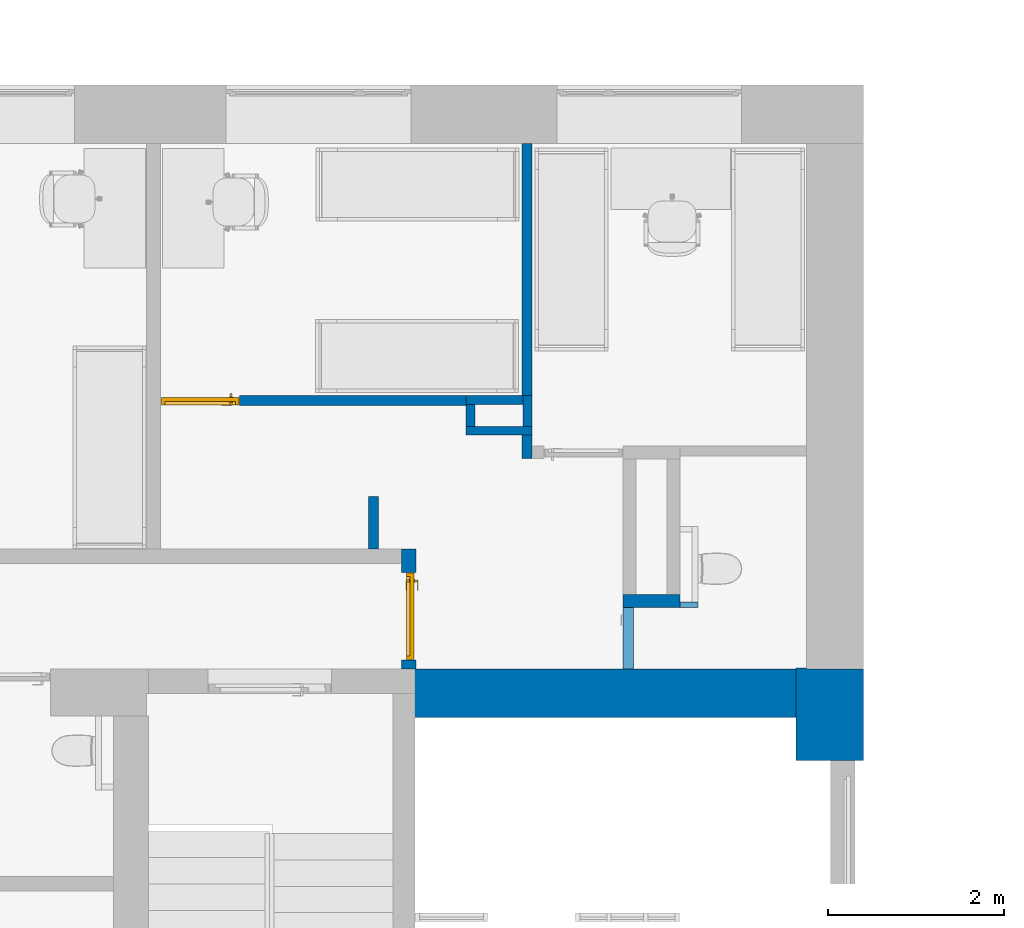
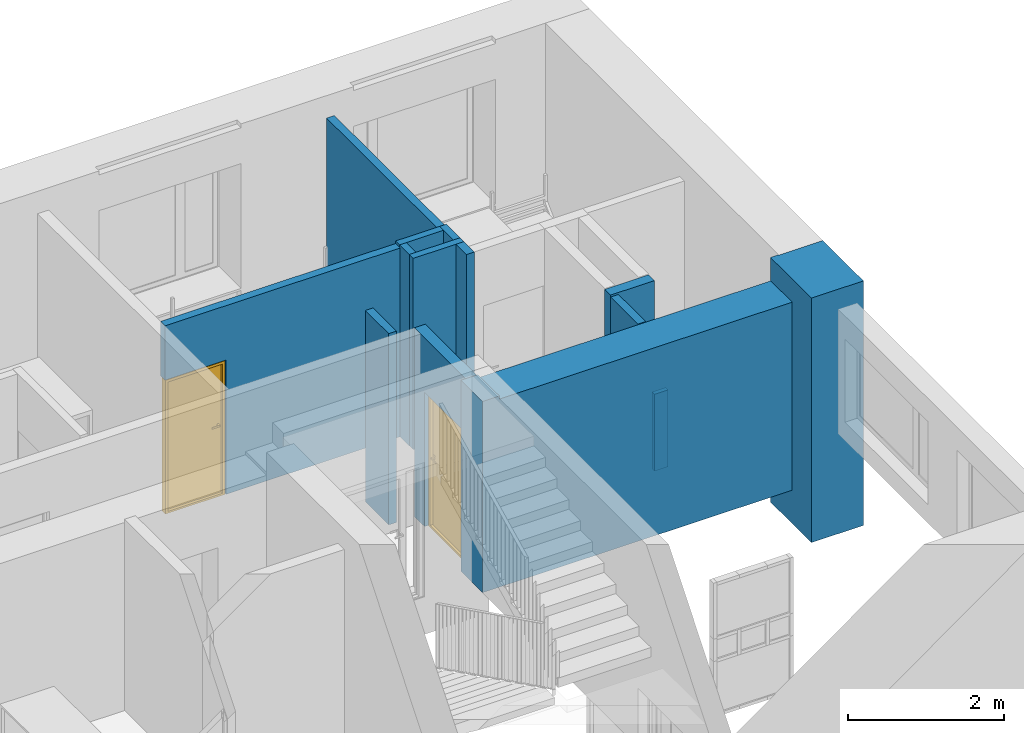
# One storey, part 14 of 46: 14 walls, 2 doors, 7 openings.
"""IFC2X3 building model written with IfcOpenShell, lengths in millimetres."""

from ifc_helpers import new_model, entity, si_unit, converted_unit, derived_unit, direction, frame, frame_2d, origin, place, context, subcontext, project, spatial, polyline, rectangle, extrude, clip, bounded_halfspace, faceted_brep, source, transform, mapped, material, material_list, layer, layer_set, layer_usage, type_object, type_shapes, element, fill, save


model = new_model("IFC2X3")

# Units and contexts
model_context = context("Model", 3, precision=0.01, world=origin(), true_north=direction((6.12303176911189e-17, 1.0)))
body_context = subcontext(model_context, "Body", "Model", "MODEL_VIEW")
ifc_project = project(units=[si_unit("LENGTHUNIT", "METRE", prefix="MILLI"), si_unit("AREAUNIT", "SQUARE_METRE"), si_unit("VOLUMEUNIT", "CUBIC_METRE"), converted_unit("PLANEANGLEUNIT", "DEGREE", entity("IfcRatioMeasure", 0.0174532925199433), si_unit("PLANEANGLEUNIT", "RADIAN"), dimensions=[0, 0, 0, 0, 0, 0, 0]), si_unit("MASSUNIT", "GRAM", prefix="KILO"), derived_unit("MASSDENSITYUNIT", [(si_unit("MASSUNIT", "GRAM", prefix="KILO"), 1), (si_unit("LENGTHUNIT", "METRE"), -3)]), si_unit("TIMEUNIT", "SECOND"), si_unit("FREQUENCYUNIT", "HERTZ"), si_unit("THERMODYNAMICTEMPERATUREUNIT", "DEGREE_CELSIUS"), derived_unit("THERMALTRANSMITTANCEUNIT", [(si_unit("MASSUNIT", "GRAM", prefix="KILO"), 1), (si_unit("THERMODYNAMICTEMPERATUREUNIT", "KELVIN"), -1), (si_unit("TIMEUNIT", "SECOND"), -3)]), derived_unit("VOLUMETRICFLOWRATEUNIT", [(si_unit("LENGTHUNIT", "METRE"), 3), (si_unit("TIMEUNIT", "SECOND"), -1)]), si_unit("ELECTRICCURRENTUNIT", "AMPERE"), si_unit("ELECTRICVOLTAGEUNIT", "VOLT"), si_unit("POWERUNIT", "WATT"), si_unit("FORCEUNIT", "NEWTON", prefix="KILO"), si_unit("ILLUMINANCEUNIT", "LUX"), si_unit("LUMINOUSFLUXUNIT", "LUMEN"), si_unit("LUMINOUSINTENSITYUNIT", "CANDELA"), derived_unit("USERDEFINED", [(si_unit("MASSUNIT", "GRAM", prefix="KILO"), -1), (si_unit("LENGTHUNIT", "METRE"), -2), (si_unit("TIMEUNIT", "SECOND"), 3), (si_unit("LUMINOUSFLUXUNIT", "LUMEN"), 1)]), derived_unit("LINEARVELOCITYUNIT", [(si_unit("LENGTHUNIT", "METRE"), 1), (si_unit("TIMEUNIT", "SECOND"), -1)]), si_unit("PRESSUREUNIT", "PASCAL"), derived_unit("USERDEFINED", [(si_unit("LENGTHUNIT", "METRE"), -2), (si_unit("MASSUNIT", "GRAM", prefix="KILO"), 1), (si_unit("TIMEUNIT", "SECOND"), -2)]), derived_unit("LINEARFORCEUNIT", [(si_unit("MASSUNIT", "GRAM", prefix="KILO"), 1), (si_unit("LENGTHUNIT", "METRE"), 1), (si_unit("TIMEUNIT", "SECOND"), -2), (si_unit("LENGTHUNIT", "METRE"), -1)]), derived_unit("PLANARFORCEUNIT", [(si_unit("MASSUNIT", "GRAM", prefix="KILO"), 1), (si_unit("LENGTHUNIT", "METRE"), 1), (si_unit("TIMEUNIT", "SECOND"), -2), (si_unit("LENGTHUNIT", "METRE"), -2)])], contexts=[model_context])

# Site, building, storey
site_placement = place(None, origin())
site = spatial("IfcSite", under=ifc_project, at=site_placement, Name="Default", CompositionType="ELEMENT")
building_placement = place(site_placement, origin())
building = spatial("IfcBuilding", under=site, at=building_placement, Name="SMA ARH", CompositionType="ELEMENT")
storey_placement = place(building_placement, origin())
storey = spatial("IfcBuildingStorey", under=building, at=storey_placement, Name="1 Korrus", CompositionType="ELEMENT", Elevation=0.0)

# Wall
ifc_material_1 = material(Name="_ol.olev sein")
ifc_layer_1 = layer(ifc_material_1, 550.0)
ifc_layer_set_1 = layer_set([ifc_layer_1], Name="Basic Wall:Generic - 550mm")
ifc_layer_usage_1 = layer_usage(ifc_layer_set_1, "AXIS2", "NEGATIVE", 275.0)
wall_type_1 = type_object("IfcWallType", Name="Basic Wall:Generic - 550mm", PredefinedType="STANDARD", material=ifc_layer_set_1)
wall_1_placement = place(storey_placement, frame((38195.0, 6245.0, 0.0), z_axis=(0.0, 0.0, 1.0), x_axis=(-1.0, 0.0, 0.0)))
element("IfcWallStandardCase", 1, at=wall_1_placement, inside=storey, type_object=wall_type_1, material=ifc_layer_usage_1, Name="Basic Wall:Generic - 550mm", ObjectType="Basic Wall:Generic - 550mm", context=body_context, shape_type="Clipping", body=[
    clip(clip(extrude(rectangle(XDim=4580.00000000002, YDim=550.000000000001, at=frame_2d((2290.00000000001, 2.8421709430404e-14), x_axis=(-1.0, 0.0))), origin(), (0.0, 0.0, 1.0), 2989.99999999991), bounded_halfspace(frame((4330.0, -275.0, 2940.0), z_axis=(0.0, 0.0, -1.0), x_axis=(0.0, -1.0, 0.0)), True, frame((4330.0, -275.0, 2940.0), z_axis=(0.0, 0.0, -1.0), x_axis=(0.0, -1.0, 0.0)), polyline([(0.0, 0.0), (0.0, 4330.0), (-550.0, 4330.0), (-550.0, 0.0), (0.0, 0.0)]))), bounded_halfspace(frame((4330.0, 275.0, 2940.0), z_axis=(1.0, 0.0, 0.0), x_axis=(0.0, 0.0, 1.0)), True, frame((4330.0, 275.0, 2940.0), z_axis=(1.0, 0.0, 0.0), x_axis=(0.0, 0.0, 1.0)), polyline([(0.0, 0.0), (50.0, 0.0), (50.0, 270.0), (50.0, 550.0), (0.0, 550.0), (0.0, 0.0)]))),
])

# Wall, opening
ifc_material_2 = material(Name="EST. Müüritis. Väikeplokk. Kergkruusplokk")
ifc_layer_2 = layer(ifc_material_2, 150.0)
ifc_layer_set_2 = layer_set([ifc_layer_2], Name="Basic Wall:SS-02_ 150mm šahtide vahesein")
ifc_layer_usage_2 = layer_usage(ifc_layer_set_2, "AXIS2", "POSITIVE", -75.0)
wall_type_2 = type_object("IfcWallType", Name="Basic Wall:SS-02_ 150mm šahtide vahesein", PredefinedType="STANDARD", material=ifc_layer_set_2)
wall_2_placement = place(storey_placement, frame((36880.0, 7295.0, 0.0), z_axis=(0.0, 0.0, 1.0), x_axis=(-1.0, 0.0, 0.0)))
wall_2 = element("IfcWallStandardCase", 2, at=wall_2_placement, inside=storey, type_object=wall_type_2, material=ifc_layer_usage_2, Name="Basic Wall:SS-02_ 150mm šahtide vahesein", ObjectType="Basic Wall:SS-02_ 150mm šahtide vahesein", context=body_context, shape_type="SweptSolid", body=[
    extrude(rectangle(XDim=649.999999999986, YDim=150.000000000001, at=frame_2d((324.999999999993, 4.68958205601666e-13), x_axis=(-1.0, 0.0))), origin(), (0.0, 0.0, 1.0), 2979.99999999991),
])
opening_1_placement = place(wall_2_placement, origin())
element("IfcOpeningElement", 3, at=opening_1_placement, cuts=wall_2, Name="Basic Wall:SS-02_ 150mm šahtide vahesein", ObjectType="Opening", context=body_context, shape_type="SweptSolid", body=[
    extrude(rectangle(XDim=2099.99999999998, YDim=116.0, at=frame_2d((0.0, 0.0), x_axis=(0.0, 1.0))), frame((592.0, 75.0000093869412, 1050.0), z_axis=(0.0, 1.0, 0.0), x_axis=(-1.0, 0.0, 0.0)), (0.0, 0.0, 1.0), 700.0),
])

# Wall, openings
ifc_layer_3 = layer(ifc_material_1, 770.0)
ifc_layer_set_3 = layer_set([ifc_layer_3], Name="Basic Wall:Generic - 770mm")
ifc_layer_usage_3 = layer_usage(ifc_layer_set_3, "AXIS2", "NEGATIVE", 385.0)
wall_type_3 = type_object("IfcWallType", Name="Basic Wall:Generic - 770mm", PredefinedType="STANDARD", material=ifc_layer_set_3)
wall_3_placement = place(storey_placement, frame((38580.0, 6530.0, -522.953629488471), z_axis=(0.0, 0.0, 1.0), x_axis=(0.0, -1.0, 0.0)))
wall_3 = element("IfcWallStandardCase", 4, at=wall_3_placement, inside=storey, type_object=wall_type_3, material=ifc_layer_usage_3, Name="Basic Wall:Generic - 770mm", ObjectType="Basic Wall:Generic - 770mm", context=body_context, shape_type="Clipping", body=[
    clip(clip(extrude(rectangle(XDim=1049.99999999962, YDim=769.999999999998, at=frame_2d((524.999999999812, -5.96855898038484e-13), x_axis=(-1.0, 0.0))), origin(), (0.0, 0.0, 1.0), 3822.95362948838), bounded_halfspace(frame((10.0, -265.0, 3822.95362948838), z_axis=(0.0, -1.0, 0.0), x_axis=(1.0, 0.0, 0.0)), True, frame((10.0, -265.0, 3822.95362948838), z_axis=(0.0, -1.0, 0.0), x_axis=(1.0, 0.0, 0.0)), polyline([(0.0, 0.0), (-10.0, 0.0), (-10.0, -3822.95362948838), (0.0, -3822.95362948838), (0.0, -3300.0), (0.0, -2257.62827233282), (0.0, 0.0)]))), bounded_halfspace(frame((10.0, -265.0, 1565.32535715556), z_axis=(-1.0, 0.0, 0.0), x_axis=(0.0, -1.0, 0.0)), False, frame((10.0, -265.0, 1565.32535715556), z_axis=(-1.0, 0.0, 0.0), x_axis=(0.0, -1.0, 0.0)), polyline([(0.0, 0.0), (0.0, 2257.62827233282), (-650.0, 2257.62827233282), (-650.0, -1565.32535715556), (-585.0, -1565.32535715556), (0.0, -1565.32535715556), (0.0, -1042.37172766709), (-565.0, -1042.37172766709), (-565.0, 0.0), (0.0, 0.0)]))),
])
opening_2_placement = place(storey_placement, frame((38580.0, 6530.0, -522.953629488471), z_axis=(0.0, 0.0, 1.0), x_axis=(0.0, -1.0, 0.0)))
element("IfcOpeningElement", 5, at=opening_2_placement, cuts=wall_3, Name="Basic Wall:Generic - 770mm:1", ObjectType="Opening", context=body_context, shape_type="SweptSolid", body=[
    extrude(rectangle(XDim=550.0, YDim=665.0, at=frame_2d((55.0, 46.4999999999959), x_axis=(1.0, 0.0))), frame((230.0, -79.0, 522.953629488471)), (0.0, 0.0, 1.0), 1042.37172766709),
])
opening_3_placement = place(wall_3_placement, origin())
element("IfcOpeningElement", 6, at=opening_3_placement, cuts=wall_3, Name="Basic Wall:Generic - 770mm", ObjectType="Opening", context=body_context, shape_type="SweptSolid", body=[
    extrude(rectangle(XDim=1300.0, YDim=2130.0, at=frame_2d((-1.70530256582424e-13, -5.6843418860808e-13), x_axis=(1.0, 0.0))), frame((2295.0, -1514.09900086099, 2502.95362948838), z_axis=(0.0, 1.0, 0.0), x_axis=(0.0, 0.0, 1.0)), (0.0, 0.0, 1.0), 3048.0),
])
opening_4_placement = place(wall_3_placement, origin())
element("IfcOpeningElement", 7, at=opening_4_placement, cuts=wall_3, Name="Basic Wall:Generic - 770mm", ObjectType="Opening", context=body_context, shape_type="SweptSolid", body=[
    extrude(rectangle(XDim=1450.0, YDim=950.0, at=frame_2d((0.0, -5.40012479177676e-13), x_axis=(1.0, 0.0))), frame((1840.0, -1889.0, 587.953629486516), z_axis=(0.0, 1.0, 0.0), x_axis=(0.0, 0.0, 1.0)), (0.0, 0.0, 1.0), 3048.0),
])

# Wall, opening, door
ifc_material_3 = material(Name="EST. Ehitusplaat. Kipsplaat")
ifc_layer_4 = layer(ifc_material_3, 12.5)
ifc_layer_5 = layer(ifc_material_3, 12.5)
ifc_material_4 = material(Name="EST. Soojustus. Mineraalvill. Default")
ifc_layer_6 = layer(ifc_material_4, 50.0)
ifc_layer_7 = layer(ifc_material_3, 12.5)
ifc_layer_8 = layer(ifc_material_4, 50.0)
ifc_layer_9 = layer(ifc_material_3, 12.5)
ifc_layer_10 = layer(ifc_material_3, 12.5)
ifc_layer_set_4 = layer_set([ifc_layer_4, ifc_layer_5, ifc_layer_6, ifc_layer_7, ifc_layer_8, ifc_layer_9, ifc_layer_10], Name="Basic Wall:SS-04_Kips, 50+50 mm metallkarkass 2")
ifc_layer_usage_4 = layer_usage(ifc_layer_set_4, "AXIS2", "NEGATIVE", 81.25)
wall_type_4 = type_object("IfcWallType", Name="Basic Wall:SS-04_Kips, 50+50 mm metallkarkass 2", PredefinedType="STANDARD", material=ifc_layer_set_4)
wall_4_placement = place(storey_placement, frame((33792.5000000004, 7882.50000000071, 0.0), z_axis=(0.0, 0.0, 1.0), x_axis=(0.0, -1.0, 0.0)))
wall_4 = element("IfcWallStandardCase", 8, at=wall_4_placement, inside=storey, type_object=wall_type_4, material=ifc_layer_usage_4, Name="Basic Wall:SS-04_Kips, 50+50 mm metallkarkass 2", ObjectType="Basic Wall:SS-04_Kips, 50+50 mm metallkarkass 2", context=body_context, shape_type="SweptSolid", body=[
    extrude(rectangle(XDim=1362.50000000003, YDim=162.499999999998, at=frame_2d((681.250000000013, 0.0), x_axis=(-1.0, 0.0))), origin(), (0.0, 0.0, 1.0), 2949.99999999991),
])
opening_5_placement = place(wall_4_placement, frame((262.500000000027, -81.2499999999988, 0.0)))
opening_5 = element("IfcOpeningElement", 9, at=opening_5_placement, cuts=wall_4, Name="SMA_D01, 1-poolne:SU-P-04 - 1000x2100 EI-30:1", ObjectType="Opening", context=body_context, shape_type="SweptSolid", body=[
    extrude(rectangle(XDim=2099.99999999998, YDim=1000.0, at=frame_2d((1049.99999999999, 500.0), x_axis=(1.0, 0.0))), frame((0.0, 0.0, 0.0), z_axis=(0.0, 1.0, 0.0), x_axis=(0.0, 0.0, 1.0)), (0.0, 0.0, 1.0), 162.5),
])
ifc_material_5 = material(Name="EST. Metall. Alumiinium. Värvitud. RAL7023 (Concrete grey)")
ifc_material_6 = material(Name="<Unnamed>")
ifc_material_7 = material(Name="EST. Klaas. 3x. Default")
ifc_material_list_1 = material_list([ifc_material_6, ifc_material_7, ifc_material_6, ifc_material_5, ifc_material_6, ifc_material_5, ifc_material_5])
door_style_1 = type_object("IfcDoorStyle", Name="SMA_D01, 1-poolne:SU-P-04 - 1000x2100 EI-30", ConstructionType="NOTDEFINED", OperationType="SINGLE_SWING_RIGHT", ParameterTakesPrecedence=False, Sizeable=False, material=ifc_material_list_1)
shared_shape_1 = source(origin(), body_context, "Body", "Brep", [
    faceted_brep([(110.0, 52.5000000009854, 1112.5), (110.0, 90.5000000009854, 1112.5), (85.0, 90.5000000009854, 1112.5), (85.0, 47.5000000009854, 1112.5), (205.0, 47.5000000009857, 1112.5), (205.0, 52.5000000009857, 1112.5), (110.0, 52.5000000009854, 1087.5), (205.0, 52.5000000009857, 1087.5), (205.0, 47.5000000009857, 1087.5), (85.0, 47.5000000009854, 1087.5), (85.0, 90.5000000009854, 1087.5), (110.0, 90.5000000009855, 1087.5)], [[[0, 1, 2, 3, 4, 5]], [[6, 7, 8, 9, 10, 11]], [[1, 0, 6, 11]], [[2, 1, 11, 10]], [[3, 2, 10, 9]], [[4, 3, 9, 8]], [[5, 4, 8, 7]], [[0, 5, 7, 6]]]),
    faceted_brep([(122.499999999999, 90.5000000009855, 1137.5), (122.499999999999, 92.5000000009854, 1137.5), (72.4999999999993, 92.5000000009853, 1137.5), (72.4999999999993, 90.5000000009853, 1137.5), (122.499999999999, 90.5000000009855, 1017.5), (72.4999999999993, 90.5000000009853, 1017.5), (72.4999999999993, 92.5000000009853, 1017.5), (122.499999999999, 92.5000000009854, 1017.5)], [[[0, 1, 2, 3]], [[4, 5, 6, 7]], [[1, 0, 4, 7]], [[2, 1, 7, 6]], [[3, 2, 6, 5]], [[0, 3, 5, 4]]]),
    faceted_brep([(110.0, 182.500000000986, 1112.5), (205.0, 182.500000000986, 1112.5), (205.0, 187.500000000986, 1112.5), (85.0, 187.500000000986, 1112.5), (85.0, 144.500000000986, 1112.5), (110.0, 144.500000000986, 1112.5), (110.0, 182.500000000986, 1087.5), (110.0, 144.500000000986, 1087.5), (85.0, 144.500000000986, 1087.5), (85.0, 187.500000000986, 1087.5), (205.0, 187.500000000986, 1087.5), (205.0, 182.500000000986, 1087.5)], [[[0, 1, 2, 3, 4, 5]], [[6, 7, 8, 9, 10, 11]], [[5, 7, 6, 0]], [[4, 8, 7, 5]], [[3, 9, 8, 4]], [[2, 10, 9, 3]], [[1, 11, 10, 2]], [[0, 6, 11, 1]]]),
    faceted_brep([(122.499999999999, 144.500000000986, 1137.5), (72.4999999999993, 144.500000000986, 1137.5), (72.4999999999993, 142.500000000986, 1137.5), (122.499999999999, 142.500000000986, 1137.5), (122.499999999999, 144.500000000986, 1017.5), (122.499999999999, 142.500000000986, 1017.5), (72.4999999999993, 142.500000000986, 1017.5), (72.4999999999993, 144.500000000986, 1017.5)], [[[0, 1, 2, 3]], [[4, 5, 6, 7]], [[3, 5, 4, 0]], [[2, 6, 5, 3]], [[1, 7, 6, 2]], [[0, 4, 7, 1]]]),
    faceted_brep([(950.0, 52.5000000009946, 30.0), (950.0, 52.5000000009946, 0.0), (950.0, 92.5000000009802, 0.0), (950.0, 92.5000000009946, 20.0), (950.0, 92.5000000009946, 30.0), (50.0, 52.5000000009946, 30.0), (50.0, 92.5000000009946, 30.0), (50.0, 92.5000000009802, 20.0), (50.0, 92.5000000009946, 0.0), (50.0, 52.5000000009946, 0.0), (35.0, 92.5000000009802, 0.0), (35.0, 142.500000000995, 0.0), (965.0, 142.500000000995, 0.0), (965.0, 92.5000000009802, 0.0), (965.0, 142.500000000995, 20.0), (965.0, 92.5000000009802, 20.0), (35.0, 142.500000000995, 20.0), (35.0, 92.5000000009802, 20.0)], [[[0, 1, 2, 3, 4]], [[5, 6, 7, 8, 9]], [[1, 0, 5, 9]], [[2, 1, 9, 8, 10, 11, 12, 13]], [[6, 4, 3, 7]], [[0, 4, 6, 5]], [[14, 15, 13, 12]], [[16, 11, 10, 17]], [[15, 14, 16, 17, 7, 3]], [[13, 15, 3, 2]], [[14, 12, 11, 16]], [[17, 10, 8, 7]]]),
    faceted_brep([(990.0, 52.5000000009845, 0.0), (950.0, 52.5000000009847, 0.0), (950.0, 92.5000000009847, 0.0), (965.0, 92.5000000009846, 0.0), (965.0, 142.500000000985, 0.0), (990.0, 142.500000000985, 0.0), (990.0, 52.5000000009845, 2090.0), (10.0, 52.5000000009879, 2090.0), (10.0, 52.5000000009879, 0.0), (50.0, 52.5000000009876, 0.0), (50.0, 52.5000000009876, 2050.0), (950.0, 52.5000000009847, 2050.0), (950.0, 92.5000000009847, 2050.0), (50.0, 92.5000000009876, 2050.0), (50.0, 92.5000000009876, 0.0), (35.0, 92.5000000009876, 0.0), (35.0, 92.5000000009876, 2065.0), (965.0, 92.5000000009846, 2065.0), (965.0, 142.500000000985, 2065.0), (35.0, 142.500000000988, 2065.0), (35.0, 142.500000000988, 0.0), (10.0, 142.500000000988, 0.0), (10.0, 142.500000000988, 2090.0), (990.0, 142.500000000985, 2090.0)], [[[0, 1, 2, 3, 4, 5]], [[1, 0, 6, 7, 8, 9, 10, 11]], [[2, 1, 11, 12]], [[3, 2, 12, 13, 14, 15, 16, 17]], [[4, 3, 17, 18]], [[5, 4, 18, 19, 20, 21, 22, 23]], [[0, 5, 23, 6]], [[8, 7, 22, 21]], [[9, 8, 21, 20, 15, 14]], [[10, 9, 14, 13]], [[16, 15, 20, 19]], [[11, 10, 13, 12]], [[17, 16, 19, 18]], [[7, 6, 23, 22]]]),
    faceted_brep([(35.0, 92.5000000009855, 2065.0), (35.0, 92.5000000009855, 20.0), (965.0, 92.5000000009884, 20.0), (965.0, 92.5000000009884, 2065.0), (35.0, 142.500000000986, 2065.0), (965.0, 142.500000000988, 2065.0), (965.0, 142.500000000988, 20.0), (35.0, 142.500000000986, 20.0)], [[[0, 1, 2, 3]], [[4, 5, 6, 7]], [[1, 0, 4, 7]], [[2, 1, 7, 6]], [[3, 2, 6, 5]], [[0, 3, 5, 4]]]),
])
type_shapes(door_style_1, [shared_shape_1])
door_1_placement = place(opening_5_placement, origin())
door_1 = element("IfcDoor", 10, at=door_1_placement, inside=storey, type_object=door_style_1, material=ifc_material_5, Name="SMA_D01, 1-poolne:SU-P-04 - 1000x2100 EI-30", ObjectType="SMA_D01, 1-poolne:SU-P-04 - 1000x2100 EI-30", OverallHeight=2099.99999999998, OverallWidth=999.999999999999, context=body_context, shape_type="MappedRepresentation", body=[
    mapped(shared_shape_1, transform((0.0, 0.0, 0.0), scale=1.0)),
])
fill(opening_5, door_1)

# Walls
ifc_layer_11 = layer(ifc_material_3, 12.5)
ifc_layer_12 = layer(ifc_material_3, 12.5)
ifc_layer_13 = layer(ifc_material_4, 66.0)
ifc_layer_14 = layer(ifc_material_3, 12.5)
ifc_layer_15 = layer(ifc_material_3, 12.5)
ifc_layer_set_5 = layer_set([ifc_layer_11, ifc_layer_12, ifc_layer_13, ifc_layer_14, ifc_layer_15], Name="Basic Wall:SS-05_Kips, 66mm metallkarkass")
ifc_layer_usage_5 = layer_usage(ifc_layer_set_5, "AXIS2", "NEGATIVE", 58.0)
wall_type_5 = type_object("IfcWallType", Name="Basic Wall:SS-05_Kips, 66mm metallkarkass", PredefinedType="STANDARD", material=ifc_layer_set_5)
wall_5_placement = place(storey_placement, frame((35135.5000000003, 12500.0, 0.0), z_axis=(0.0, 0.0, 1.0), x_axis=(0.0, -1.0, 0.0)))
element("IfcWallStandardCase", 11, at=wall_5_placement, inside=storey, type_object=wall_type_5, material=ifc_layer_usage_5, Name="Basic Wall:SS-05_Kips, 66mm metallkarkass", ObjectType="Basic Wall:SS-05_Kips, 66mm metallkarkass", context=body_context, shape_type="SweptSolid", body=[
    extrude(rectangle(XDim=2868.49999999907, YDim=116.0, at=frame_2d((1434.24999999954, -2.20268248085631e-13), x_axis=(-1.0, 0.0))), origin(), (0.0, 0.0, 1.0), 2949.99999999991),
])
ifc_layer_usage_6 = layer_usage(ifc_layer_set_5, "AXIS2", "NEGATIVE", 58.0)
wall_6_placement = place(storey_placement, frame((35135.5000000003, 9181.50000000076, 0.0), z_axis=(0.0, 0.0, 1.0), x_axis=(0.0, -1.0, 0.0)))
element("IfcWallStandardCase", 12, at=wall_6_placement, inside=storey, type_object=wall_type_5, material=ifc_layer_usage_6, Name="Basic Wall:SS-05_Kips, 66mm metallkarkass", ObjectType="Basic Wall:SS-05_Kips, 66mm metallkarkass", context=body_context, shape_type="SweptSolid", body=[
    extrude(rectangle(XDim=266.998594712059, YDim=116.0, at=frame_2d((133.49929735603, 0.0), x_axis=(-1.0, 0.0))), origin(), (0.0, 0.0, 1.0), 2989.99999999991),
])

# Wall, opening, door
ifc_layer_usage_7 = layer_usage(ifc_layer_set_5, "AXIS2", "POSITIVE", -58.0)
wall_7_placement = place(storey_placement, frame((34443.5000000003, 9573.50000000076, 0.0), z_axis=(0.0, 0.0, 1.0), x_axis=(-1.0, 0.0, 0.0)))
wall_7 = element("IfcWallStandardCase", 13, at=wall_7_placement, inside=storey, type_object=wall_type_5, material=ifc_layer_usage_7, Name="Basic Wall:SS-05_Kips, 66mm metallkarkass", ObjectType="Basic Wall:SS-05_Kips, 66mm metallkarkass", context=body_context, shape_type="SweptSolid", body=[
    extrude(rectangle(XDim=3475.75, YDim=116.0, at=frame_2d((1737.875, 1.24344978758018e-13), x_axis=(-1.0, 0.0))), origin(), (0.0, 0.0, 1.0), 2949.99999999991),
])
opening_6_placement = place(wall_7_placement, frame((3475.75, 58.0, 0.0)))
opening_6 = element("IfcOpeningElement", 14, at=opening_6_placement, cuts=wall_7, Name="SMA_D01, 1-poolne:SU-P-05 - 900x2100 TUBA:1", ObjectType="Opening", context=body_context, shape_type="SweptSolid", body=[
    extrude(rectangle(XDim=2099.99999999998, YDim=900.0, at=frame_2d((1049.99999999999, 450.0), x_axis=(1.0, 0.0))), frame((0.0, 0.0, 0.0), z_axis=(0.0, -1.0, 0.0), x_axis=(0.0, 0.0, 1.0)), (0.0, 0.0, 1.0), 116.0),
])
ifc_material_list_2 = material_list([ifc_material_5, ifc_material_6, ifc_material_5, ifc_material_6, ifc_material_6, ifc_material_7, ifc_material_5])
door_style_2 = type_object("IfcDoorStyle", Name="SMA_D01, 1-poolne:SU-P-05 - 900x2100 TUBA", ConstructionType="NOTDEFINED", OperationType="SINGLE_SWING_LEFT", ParameterTakesPrecedence=False, Sizeable=False, material=ifc_material_list_2)
shared_shape_2 = source(origin(), body_context, "Body", "Brep", [
    faceted_brep([(790.0, 6.0, 1112.5), (695.0, 6.0, 1112.5), (695.0, 1.0, 1112.5), (815.0, 1.0, 1112.5), (815.0, 44.0, 1112.5), (790.0, 44.0, 1112.5), (790.0, 6.0, 1087.5), (790.0, 44.0, 1087.5), (815.0, 44.0, 1087.5), (815.0, 1.0, 1087.5), (695.0, 1.0, 1087.5), (695.0, 6.0, 1087.5)], [[[0, 1, 2, 3, 4, 5]], [[6, 7, 8, 9, 10, 11]], [[5, 7, 6, 0]], [[4, 8, 7, 5]], [[3, 9, 8, 4]], [[2, 10, 9, 3]], [[1, 11, 10, 2]], [[0, 6, 11, 1]]]),
    faceted_brep([(777.500000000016, 44.0, 1137.5), (827.500000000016, 44.0, 1137.5), (827.500000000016, 46.0, 1137.5), (777.500000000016, 46.0, 1137.5), (777.500000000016, 44.0, 1017.5), (777.500000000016, 46.0, 1017.5), (827.500000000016, 46.0, 1017.5), (827.500000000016, 44.0, 1017.5)], [[[0, 1, 2, 3]], [[4, 5, 6, 7]], [[3, 5, 4, 0]], [[2, 6, 5, 3]], [[1, 7, 6, 2]], [[0, 4, 7, 1]]]),
    faceted_brep([(790.0, 136.0, 1112.5), (790.0, 98.0, 1112.5), (815.0, 98.0, 1112.5), (815.0, 141.0, 1112.5), (695.0, 141.0, 1112.5), (695.0, 136.0, 1112.5), (790.0, 136.0, 1087.5), (695.0, 136.0, 1087.5), (695.0, 141.0, 1087.5), (815.0, 141.0, 1087.5), (815.0, 98.0, 1087.5), (790.0, 98.0, 1087.5)], [[[0, 1, 2, 3, 4, 5]], [[6, 7, 8, 9, 10, 11]], [[1, 0, 6, 11]], [[2, 1, 11, 10]], [[3, 2, 10, 9]], [[4, 3, 9, 8]], [[5, 4, 8, 7]], [[0, 5, 7, 6]]]),
    faceted_brep([(777.500000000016, 98.0, 1137.5), (777.500000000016, 96.0, 1137.5), (827.500000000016, 96.0, 1137.5), (827.500000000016, 98.0, 1137.5), (777.500000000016, 98.0, 1017.5), (827.500000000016, 98.0, 1017.5), (827.500000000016, 96.0, 1017.5), (777.500000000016, 96.0, 1017.5)], [[[0, 1, 2, 3]], [[4, 5, 6, 7]], [[1, 0, 4, 7]], [[2, 1, 7, 6]], [[3, 2, 6, 5]], [[0, 3, 5, 4]]]),
    faceted_brep([(50.0, 6.0, 30.0), (50.0, 46.0, 30.0), (50.0, 46.0, 20.0), (50.0, 46.0, 0.0), (50.0, 6.0, 0.0), (850.0, 6.0, 30.0), (850.0, 6.0, 0.0), (850.0, 46.0, 0.0), (850.0, 46.0, 20.0), (850.0, 46.0, 30.0), (35.0, 46.0, 0.0), (35.0, 96.0, 0.0), (865.0, 96.0, 0.0), (865.0, 46.0, 0.0), (35.0, 96.0, 20.0), (35.0, 46.0, 20.0), (865.0, 96.0, 20.0), (865.0, 46.0, 20.0)], [[[0, 1, 2, 3, 4]], [[5, 6, 7, 8, 9]], [[4, 6, 5, 0]], [[3, 10, 11, 12, 13, 7, 6, 4]], [[9, 8, 2, 1]], [[0, 5, 9, 1]], [[14, 11, 10, 15]], [[16, 17, 13, 12]], [[15, 2, 8, 17, 16, 14]], [[10, 3, 2, 15]], [[14, 16, 12, 11]], [[17, 8, 7, 13]]]),
    faceted_brep([(10.0, 6.0, 0.0), (10.0, 96.0, 0.0), (35.0, 96.0, 0.0), (35.0, 46.0, 0.0), (50.0, 46.0, 0.0), (50.0, 6.0, 0.0), (50.0, 6.0, 2050.0), (850.0, 6.0, 2050.0), (850.0, 6.0, 0.0), (890.0, 6.0, 0.0), (890.0, 6.0, 2090.0), (10.0, 6.0, 2090.0), (50.0, 46.0, 2050.0), (35.0, 46.0, 2065.0), (865.0, 46.0, 2065.0), (865.0, 46.0, 0.0), (850.0, 46.0, 0.0), (850.0, 46.0, 2050.0), (35.0, 96.0, 2065.0), (10.0, 96.0, 2090.0), (890.0, 96.0, 2090.0), (890.0, 96.0, 0.0), (865.0, 96.0, 0.0), (865.0, 96.0, 2065.0)], [[[0, 1, 2, 3, 4, 5]], [[5, 6, 7, 8, 9, 10, 11, 0]], [[4, 12, 6, 5]], [[3, 13, 14, 15, 16, 17, 12, 4]], [[2, 18, 13, 3]], [[1, 19, 20, 21, 22, 23, 18, 2]], [[0, 11, 19, 1]], [[9, 21, 20, 10]], [[8, 16, 15, 22, 21, 9]], [[7, 17, 16, 8]], [[14, 23, 22, 15]], [[6, 12, 17, 7]], [[13, 18, 23, 14]], [[10, 20, 19, 11]]]),
    faceted_brep([(865.0, 46.0, 2065.0), (35.0, 46.0, 2065.0), (35.0, 46.0, 20.0), (865.0, 46.0, 20.0), (865.0, 96.0, 2065.0), (865.0, 96.0, 20.0), (35.0, 96.0, 20.0), (35.0, 96.0, 2065.0)], [[[0, 1, 2, 3]], [[4, 5, 6, 7]], [[3, 5, 4, 0]], [[2, 6, 5, 3]], [[1, 7, 6, 2]], [[0, 4, 7, 1]]]),
])
type_shapes(door_style_2, [shared_shape_2])
door_2_placement = place(opening_6_placement, frame((0.0, 0.0, 0.0), z_axis=(0.0, 0.0, 1.0), x_axis=(-1.0, 0.0, 0.0)))
door_2 = element("IfcDoor", 15, at=door_2_placement, inside=storey, type_object=door_style_2, material=ifc_material_5, Name="SMA_D01, 1-poolne:SU-P-05 - 900x2100 TUBA", ObjectType="SMA_D01, 1-poolne:SU-P-05 - 900x2100 TUBA", OverallHeight=2099.99999999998, OverallWidth=899.999999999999, context=body_context, shape_type="MappedRepresentation", body=[
    mapped(shared_shape_2, transform((0.0, 0.0, 0.0), scale=1.0)),
])
fill(opening_6, door_2)

# Wall, opening
ifc_layer_16 = layer(ifc_material_3, 12.5)
ifc_layer_17 = layer(ifc_material_3, 12.5)
ifc_material_8 = material(Name="EST. Õhkvahe. Roov. Kipsplaadi alusroov. Vertikaalne")
ifc_layer_18 = layer(ifc_material_8, 66.0)
ifc_layer_19 = layer(ifc_material_3, 12.5)
ifc_layer_20 = layer(ifc_material_3, 12.5)
ifc_layer_set_6 = layer_set([ifc_layer_16, ifc_layer_17, ifc_layer_18, ifc_layer_19, ifc_layer_20], Name="Basic Wall:SS-03_Kips, 66mm metallkarkass")
ifc_layer_usage_8 = layer_usage(ifc_layer_set_6, "AXIS2", "NEGATIVE", 58.0)
wall_type_6 = type_object("IfcWallType", Name="Basic Wall:SS-03_Kips, 66mm metallkarkass", PredefinedType="STANDARD", material=ifc_layer_set_6)
wall_8_placement = place(storey_placement, frame((36288.0, 7220.0, 2100.0), z_axis=(0.0, 0.0, 1.0), x_axis=(0.0, -1.0, 0.0)))
wall_8 = element("IfcWallStandardCase", 16, at=wall_8_placement, inside=storey, type_object=wall_type_6, material=ifc_layer_usage_8, Name="Basic Wall:SS-03_Kips, 66mm metallkarkass", ObjectType="Basic Wall:SS-03_Kips, 66mm metallkarkass", context=body_context, shape_type="SweptSolid", body=[
    extrude(rectangle(XDim=700.000009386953, YDim=116.0, at=frame_2d((350.000004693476, 0.0), x_axis=(-1.0, 0.0))), origin(), (0.0, 0.0, 1.0), 849.999999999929),
])
opening_7_placement = place(wall_8_placement, frame((700.0, 58.0, -2100.0)))
element("IfcOpeningElement", 17, at=opening_7_placement, cuts=wall_8, Name="SMA_D01, 1-poolne:SU-P-08 - 700x2100 DUŠŠ:1", ObjectType="Opening", context=body_context, shape_type="SweptSolid", body=[
    extrude(rectangle(XDim=2099.99999999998, YDim=700.0, at=frame_2d((1049.99999999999, 350.0), x_axis=(1.0, 0.0))), frame((0.0, 0.0, 0.0), z_axis=(0.0, -1.0, 0.0), x_axis=(0.0, 0.0, 1.0)), (0.0, 0.0, 1.0), 116.0),
])

# Walls
ifc_layer_usage_9 = layer_usage(ifc_layer_set_6, "AXIS2", "POSITIVE", -58.0)
wall_9_placement = place(storey_placement, frame((33390.0, 8482.50000000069, 0.0), z_axis=(0.0, 0.0, 1.0), x_axis=(0.0, -1.0, 0.0)))
element("IfcWallStandardCase", 18, at=wall_9_placement, inside=storey, type_object=wall_type_6, material=ifc_layer_usage_9, Name="Basic Wall:SS-03_Kips, 66mm metallkarkass", ObjectType="Basic Wall:SS-03_Kips, 66mm metallkarkass", context=body_context, shape_type="SweptSolid", body=[
    extrude(rectangle(XDim=599.999999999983, YDim=116.0, at=frame_2d((299.999999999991, 0.0), x_axis=(-1.0, 0.0))), origin(), (0.0, 0.0, 1.0), 2989.99999999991),
])
ifc_material_9 = material(Name="EST. Põrand. Plaatkate")
ifc_layer_21 = layer(ifc_material_9, 10.0)
ifc_layer_22 = layer(ifc_material_3, 12.5)
ifc_layer_23 = layer(ifc_material_8, 42.0)
ifc_layer_set_7 = layer_set([ifc_layer_21, ifc_layer_22, ifc_layer_23], Name="Basic Wall:SS-04 - loputuskast")
ifc_layer_usage_10 = layer_usage(ifc_layer_set_7, "AXIS2", "NEGATIVE", 32.25)
wall_type_7 = type_object("IfcWallType", Name="Basic Wall:SS-04 - loputuskast", PredefinedType="STANDARD", material=ifc_layer_set_7)
wall_10_placement = place(storey_placement, frame((37080.0, 7252.25000938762, 0.0), z_axis=(0.0, 0.0, 1.0), x_axis=(-1.0, 0.0, 0.0)))
element("IfcWallStandardCase", 19, at=wall_10_placement, inside=storey, type_object=wall_type_7, material=ifc_layer_usage_10, Name="Basic Wall:SS-04 - loputuskast", ObjectType="Basic Wall:SS-04 - loputuskast", context=body_context, shape_type="SweptSolid", body=[
    extrude(rectangle(XDim=199.999999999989, YDim=64.5000000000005, at=frame_2d((99.9999999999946, -4.36983782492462e-13), x_axis=(-1.0, 0.0))), origin(), (0.0, 0.0, 1.0), 1200.0),
])
ifc_layer_24 = layer(ifc_material_2, 100.0)
ifc_layer_set_8 = layer_set([ifc_layer_24], Name="Basic Wall:SS-02_ 100mm šahtide vahesein 2")
ifc_layer_usage_11 = layer_usage(ifc_layer_set_8, "AXIS2", "POSITIVE", -50.0)
wall_type_8 = type_object("IfcWallType", Name="Basic Wall:SS-02_ 100mm šahtide vahesein 2", PredefinedType="STANDARD", material=ifc_layer_set_8)
wall_11_placement = place(storey_placement, frame((35093.5000000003, 9581.50000000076, 0.0), z_axis=(0.0, 0.0, 1.0), x_axis=(-1.0, 0.0, 0.0)))
element("IfcWallStandardCase", 20, at=wall_11_placement, inside=storey, type_object=wall_type_8, material=ifc_layer_usage_11, Name="Basic Wall:SS-02_ 100mm šahtide vahesein 2", ObjectType="Basic Wall:SS-02_ 100mm šahtide vahesein 2", context=body_context, shape_type="SweptSolid", body=[
    extrude(rectangle(XDim=650.000000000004, YDim=99.9999999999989, at=frame_2d((325.000000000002, -4.9737991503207e-13), x_axis=(-1.0, 0.0))), origin(), (0.0, 0.0, 1.0), 2989.99999999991),
])
ifc_layer_usage_12 = layer_usage(ifc_layer_set_8, "AXIS2", "NEGATIVE", 50.0)
wall_12_placement = place(storey_placement, frame((35193.5000000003, 9231.50000000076, 0.0), z_axis=(0.0, 0.0, 1.0), x_axis=(-1.0, 0.0, 0.0)))
element("IfcWallStandardCase", 21, at=wall_12_placement, inside=storey, type_object=wall_type_8, material=ifc_layer_usage_12, Name="Basic Wall:SS-02_ 100mm šahtide vahesein 2", ObjectType="Basic Wall:SS-02_ 100mm šahtide vahesein 2", context=body_context, shape_type="SweptSolid", body=[
    extrude(rectangle(XDim=750.000000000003, YDim=100.000000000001, at=frame_2d((375.000000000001, -4.29878355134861e-13), x_axis=(-1.0, 0.0))), origin(), (0.0, 0.0, 1.0), 2989.99999999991),
])
ifc_layer_usage_13 = layer_usage(ifc_layer_set_8, "AXIS2", "NEGATIVE", 50.0)
wall_13_placement = place(storey_placement, frame((34493.5000000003, 9281.50000000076, 0.0), z_axis=(0.0, 0.0, 1.0), x_axis=(0.0, 1.0, 0.0)))
element("IfcWallStandardCase", 22, at=wall_13_placement, inside=storey, type_object=wall_type_8, material=ifc_layer_usage_13, Name="Basic Wall:SS-02_ 100mm šahtide vahesein 2", ObjectType="Basic Wall:SS-02_ 100mm šahtide vahesein 2", context=body_context, shape_type="SweptSolid", body=[
    extrude(rectangle(XDim=249.999999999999, YDim=100.000000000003, at=frame_2d((125.0, 0.0), x_axis=(-1.0, 0.0))), origin(), (0.0, 0.0, 1.0), 2989.99999999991),
])
ifc_layer_usage_14 = layer_usage(ifc_layer_set_8, "AXIS2", "NEGATIVE", 50.0)
wall_14_placement = place(storey_placement, frame((35143.5000000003, 9631.50000000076, 0.0), z_axis=(0.0, 0.0, 1.0), x_axis=(0.0, -1.0, 0.0)))
element("IfcWallStandardCase", 23, at=wall_14_placement, inside=storey, type_object=wall_type_8, material=ifc_layer_usage_14, Name="Basic Wall:SS-02_ 100mm šahtide vahesein 2", ObjectType="Basic Wall:SS-02_ 100mm šahtide vahesein 2", context=body_context, shape_type="SweptSolid", body=[
    extrude(rectangle(XDim=350.000000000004, YDim=100.000000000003, at=frame_2d((175.000000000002, 2.38031816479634e-13), x_axis=(-1.0, 0.0))), origin(), (0.0, 0.0, 1.0), 2989.99999999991),
])

save(model, "model.ifc")
